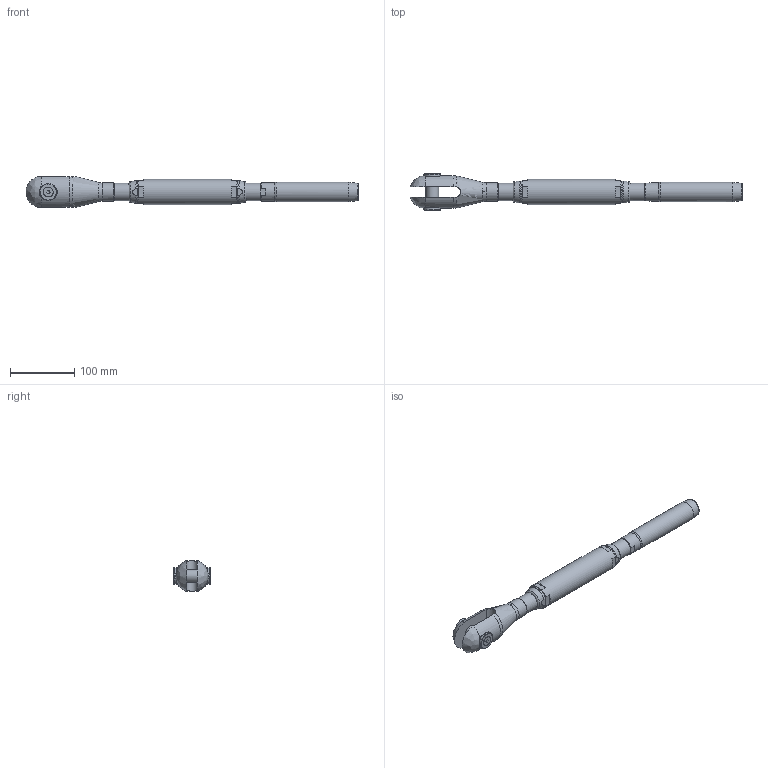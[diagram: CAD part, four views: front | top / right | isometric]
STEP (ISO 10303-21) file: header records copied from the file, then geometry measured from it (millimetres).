
FILE_DESCRIPTION(/* description */ (''),/* implementation_level */ '2;1');
FILE_NAME(/* name */ 'TBC 14_S355',/* time_stamp */ '2023-05-23T18:17:32+02:00',/* author */ (''),/* organization */ (''),/* preprocessor_version */ 'ST-DEVELOPER v16.5',/* originating_system */ 'Rhino 7.22',/* authorisation */ '');
FILE_SCHEMA (('CONFIG_CONTROL_DESIGN'));
Length unit declared in the file: millimetre
Products named in the file (1): Document
Bounding box: 515.98 x 57.78 x 48.08 mm (x, y, z)
Volume: 458092.1 mm3; surface area: 105014.1 mm2
Topology: 10 solids, 10 shells, 142 faces, 389 edges, 268 vertices
Faces by surface type: plane 66, bspline 41, cylinder 35
Full cylindrical faces by diameter (mm): 6.647 x2, 8 x2, 8.5 x2, 15.24 x2, 20 x1, 21 x2, 23.752 x4, 26 x2, 27 x2, 28.6 x2, 30 x1, 31 x1, 39 x1
Entity records: 5937 total; most frequent: CARTESIAN_POINT 3477, ORIENTED_EDGE 770, EDGE_CURVE 385, VERTEX_POINT 268, EDGE_LOOP 161, B_SPLINE_CURVE_WITH_KNOTS 160, ADVANCED_FACE 142, FACE_OUTER_BOUND 142
